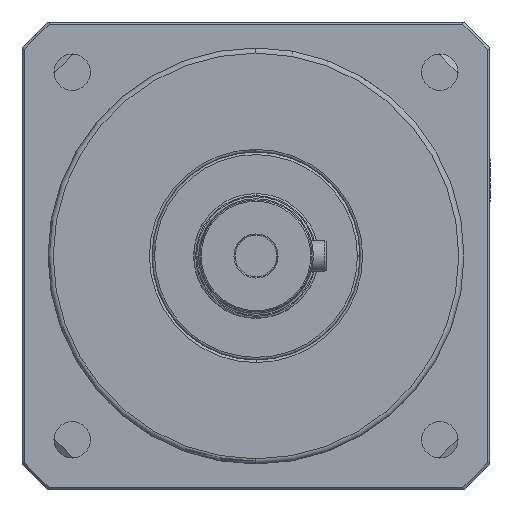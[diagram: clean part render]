
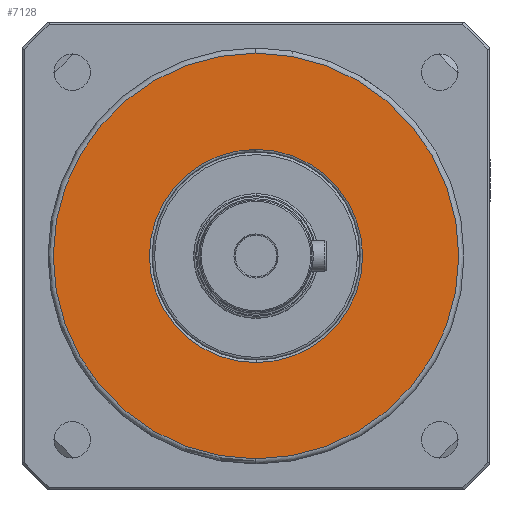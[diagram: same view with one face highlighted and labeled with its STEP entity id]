
A CAD part, left-side view. The second image highlights one B-rep face of the part: STEP entity #7128.
In plain terms, the highlighted planar face has unit normal (-1, 0, 0).
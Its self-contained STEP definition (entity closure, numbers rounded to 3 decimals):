
#4884=CARTESIAN_POINT('',(-19.,0.,0.));
#4885=DIRECTION('',(-1.,0.,0.));
#4886=DIRECTION('',(0.,0.006,-1.));
#4887=AXIS2_PLACEMENT_3D('',#4884,#4885,#4886);
#4899=CARTESIAN_POINT('',(-19.,0.,0.));
#4900=DIRECTION('',(1.,0.,0.));
#4901=DIRECTION('',(0.,0.006,-1.));
#4902=AXIS2_PLACEMENT_3D('',#4899,#4900,#4901);
#4904=CARTESIAN_POINT('',(-19.,0.,0.));
#4905=DIRECTION('',(1.,0.,0.));
#4906=DIRECTION('',(0.,-0.006,1.));
#4907=AXIS2_PLACEMENT_3D('',#4904,#4905,#4906);
#4909=CARTESIAN_POINT('',(-19.,0.,0.));
#4910=DIRECTION('',(-1.,0.,0.));
#4911=DIRECTION('',(0.,0.016,1.));
#4912=AXIS2_PLACEMENT_3D('',#4909,#4910,#4911);
#4914=CARTESIAN_POINT('',(-19.,0.,0.));
#4915=DIRECTION('',(-1.,0.,0.));
#4916=DIRECTION('',(0.,-0.016,-1.));
#4917=AXIS2_PLACEMENT_3D('',#4914,#4915,#4916);
#4919=CARTESIAN_POINT('',(-19.,0.,0.));
#4920=DIRECTION('',(-1.,0.,0.));
#4921=DIRECTION('',(0.,-0.006,1.));
#4922=AXIS2_PLACEMENT_3D('',#4919,#4920,#4921);
#4938=CARTESIAN_POINT('',(-19.,0.,0.));
#4939=DIRECTION('',(1.,0.,0.));
#4940=DIRECTION('',(0.,0.016,1.));
#4941=AXIS2_PLACEMENT_3D('',#4938,#4939,#4940);
#4958=CARTESIAN_POINT('',(-19.,0.,0.));
#4959=DIRECTION('',(1.,0.,0.));
#4960=DIRECTION('',(0.,-0.016,-1.));
#4961=AXIS2_PLACEMENT_3D('',#4958,#4959,#4960);
#5060=CARTESIAN_POINT('',(-19.,0.32,20.498));
#5061=CARTESIAN_POINT('',(-19.,0.01,-20.5));
#5062=VERTEX_POINT('',#5060);
#5063=VERTEX_POINT('',#5061);
#5064=CARTESIAN_POINT('',(-19.,-0.01,20.5));
#5065=VERTEX_POINT('',#5064);
#5066=CARTESIAN_POINT('',(-19.,0.223,-38.999));
#5067=CARTESIAN_POINT('',(-19.,0.,39.));
#5068=VERTEX_POINT('',#5066);
#5069=VERTEX_POINT('',#5067);
#5070=CARTESIAN_POINT('',(-19.,0.,-39.));
#5071=VERTEX_POINT('',#5070);
#5072=CARTESIAN_POINT('',(-19.,-0.223,38.999));
#5073=VERTEX_POINT('',#5072);
#5074=CARTESIAN_POINT('',(-19.,-0.32,-20.498));
#5075=VERTEX_POINT('',#5074);
#7105=CARTESIAN_POINT('',(-19.,0.,0.));
#7106=DIRECTION('',(-1.,0.,0.));
#7107=DIRECTION('',(0.,0.,1.));
#7108=AXIS2_PLACEMENT_3D('',#7105,#7106,#7107);
#7109=PLANE('',#7108);
#7110=ORIENTED_EDGE('',*,*,#7095,.F.);
#7111=ORIENTED_EDGE('',*,*,#7093,.T.);
#7113=ORIENTED_EDGE('',*,*,#7112,.F.);
#7115=ORIENTED_EDGE('',*,*,#7114,.T.);
#7116=EDGE_LOOP('',(#7110,#7111,#7113,#7115));
#7117=FACE_OUTER_BOUND('',#7116,.F.);
#7119=ORIENTED_EDGE('',*,*,#7118,.F.);
#7121=ORIENTED_EDGE('',*,*,#7120,.T.);
#7123=ORIENTED_EDGE('',*,*,#7122,.F.);
#7125=ORIENTED_EDGE('',*,*,#7124,.T.);
#7126=EDGE_LOOP('',(#7119,#7121,#7123,#7125));
#7127=FACE_BOUND('',#7126,.F.);
#4888=CIRCLE('',#4887,39.);
#4903=CIRCLE('',#4902,39.);
#4908=CIRCLE('',#4907,39.);
#4913=CIRCLE('',#4912,20.5);
#4918=CIRCLE('',#4917,20.5);
#4923=CIRCLE('',#4922,39.);
#4942=CIRCLE('',#4941,20.5);
#4962=CIRCLE('',#4961,20.5);
#7093=EDGE_CURVE('',#5068,#5069,#4903,.T.);
#7095=EDGE_CURVE('',#5068,#5071,#4888,.T.);
#7112=EDGE_CURVE('',#5073,#5069,#4923,.T.);
#7114=EDGE_CURVE('',#5073,#5071,#4908,.T.);
#7118=EDGE_CURVE('',#5062,#5065,#4942,.T.);
#7120=EDGE_CURVE('',#5062,#5063,#4913,.T.);
#7122=EDGE_CURVE('',#5075,#5063,#4962,.T.);
#7124=EDGE_CURVE('',#5075,#5065,#4918,.T.);
#7128=ADVANCED_FACE('',(#7117,#7127),#7109,.T.);
